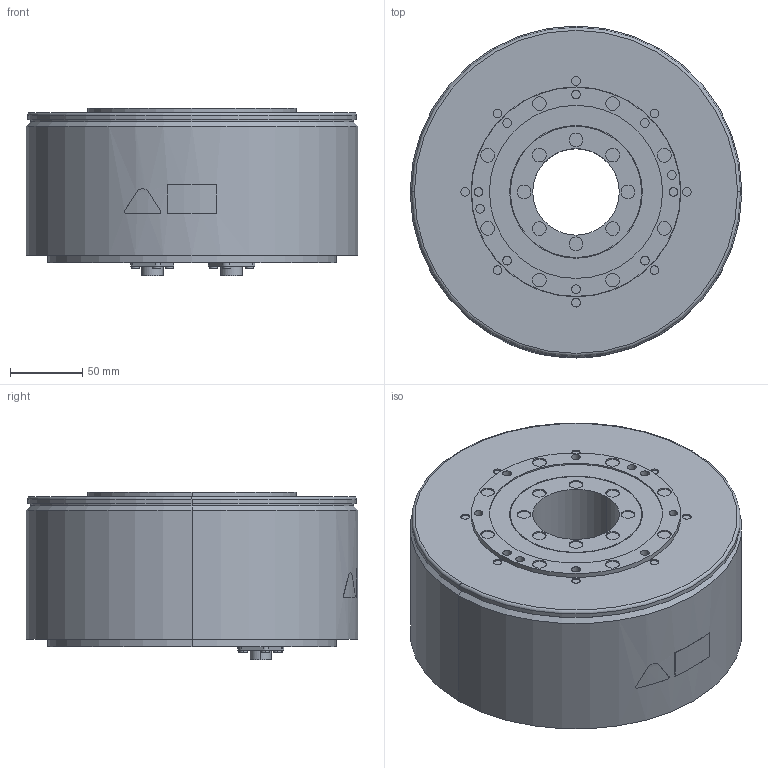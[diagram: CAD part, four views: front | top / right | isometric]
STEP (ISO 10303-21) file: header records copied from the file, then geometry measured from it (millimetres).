
FILE_DESCRIPTION (( 'STEP AP203' ), '1' );
FILE_NAME ('sgm7f_35d_a1_.STEP', '2016-02-25T01:03:19', ( '' ), ( '' ), 'SwSTEP 2.0', 'SolidWorks 2010', '' );
FILE_SCHEMA (( 'CONFIG_CONTROL_DESIGN' ));
Length unit declared in the file: millimetre
Products named in the file (1): sgm7f_35d_a1_
Bounding box: 230 x 230 x 116.1 mm (x, y, z)
Volume: 3990733.7 mm3; surface area: 183847.6 mm2
Topology: 1 solids, 1 shells, 371 faces, 802 edges, 532 vertices
Faces by surface type: cylinder 216, plane 144, bspline 5, cone 4, torus 2
Entity records: 10727 total; most frequent: CARTESIAN_POINT 2103, DIRECTION 1972, ORIENTED_EDGE 1604, AXIS2_PLACEMENT_3D 819, EDGE_CURVE 802, VERTEX_POINT 532, EDGE_LOOP 472, CIRCLE 452
